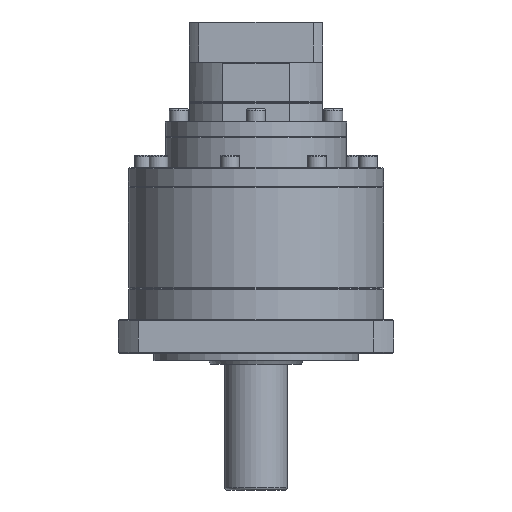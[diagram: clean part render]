
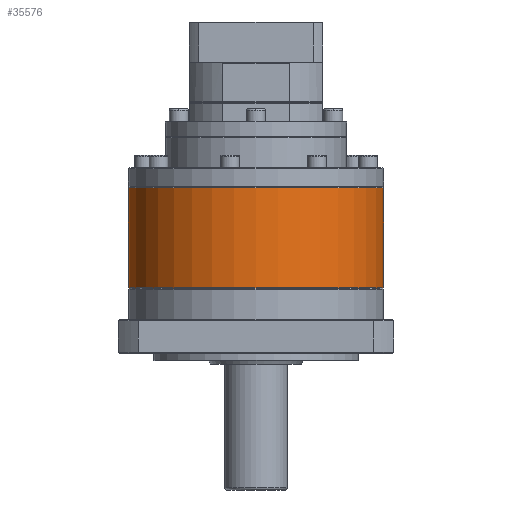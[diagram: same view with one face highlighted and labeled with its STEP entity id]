
A CAD part, front view. The second image highlights one B-rep face of the part: STEP entity #35576.
In plain terms, the highlighted cylindrical face has radius 81 mm (diameter 162 mm), a partial arc.
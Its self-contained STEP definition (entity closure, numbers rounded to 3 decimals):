
#2065 = CARTESIAN_POINT ( 'NONE',  ( -11.458, 32.86, -87.901 ) ) ;
#3018 = CYLINDRICAL_SURFACE ( 'NONE', #94611, 81. ) ;
#3564 = DIRECTION ( 'NONE',  ( 0., 0., -1. ) ) ;
#5560 = LINE ( 'NONE', #2065, #34774 ) ;
#6451 = VERTEX_POINT ( 'NONE', #16078 ) ;
#10670 = FACE_OUTER_BOUND ( 'NONE', #61128, .T. ) ;
#15890 = EDGE_CURVE ( 'NONE', #93166, #38255, #43528, .T. ) ;
#16078 = CARTESIAN_POINT ( 'NONE',  ( -11.458, 32.86, -151.901 ) ) ;
#19160 = CARTESIAN_POINT ( 'NONE',  ( -173.458, 32.86, -87.901 ) ) ;
#23987 = CARTESIAN_POINT ( 'NONE',  ( -173.458, 32.86, -88.401 ) ) ;
#26464 = CARTESIAN_POINT ( 'NONE',  ( -92.458, 32.86, -151.901 ) ) ;
#27842 = DIRECTION ( 'NONE',  ( 0., 0., 1. ) ) ;
#28817 = CARTESIAN_POINT ( 'NONE',  ( -92.458, 32.86, -87.901 ) ) ;
#29185 = DIRECTION ( 'NONE',  ( 0., 0., -1. ) ) ;
#32750 = VERTEX_POINT ( 'NONE', #53502 ) ;
#34774 = VECTOR ( 'NONE', #50673, 1000. ) ;
#35576 = ADVANCED_FACE ( 'NONE', ( #10670 ), #3018, .T. ) ;
#38255 = VERTEX_POINT ( 'NONE', #23987 ) ;
#40510 = EDGE_CURVE ( 'NONE', #32750, #6451, #79188, .T. ) ;
#43528 = CIRCLE ( 'NONE', #60629, 81. ) ;
#44148 = CARTESIAN_POINT ( 'NONE',  ( -92.458, 32.86, -88.401 ) ) ;
#47320 = ORIENTED_EDGE ( 'NONE', *, *, #40510, .T. ) ;
#50673 = DIRECTION ( 'NONE',  ( 0., 0., -1. ) ) ;
#53502 = CARTESIAN_POINT ( 'NONE',  ( -173.458, 32.86, -151.901 ) ) ;
#57980 = EDGE_CURVE ( 'NONE', #38255, #32750, #91707, .T. ) ;
#59594 = CARTESIAN_POINT ( 'NONE',  ( -11.458, 32.86, -88.401 ) ) ;
#60629 = AXIS2_PLACEMENT_3D ( 'NONE', #44148, #83908, #100266 ) ;
#61128 = EDGE_LOOP ( 'NONE', ( #87119, #88506, #98643, #47320 ) ) ;
#63807 = VECTOR ( 'NONE', #3564, 1000. ) ;
#65111 = EDGE_CURVE ( 'NONE', #93166, #6451, #5560, .T. ) ;
#74117 = AXIS2_PLACEMENT_3D ( 'NONE', #26464, #27842, #92440 ) ;
#79188 = CIRCLE ( 'NONE', #74117, 81. ) ;
#83908 = DIRECTION ( 'NONE',  ( 0., 0., -1. ) ) ;
#85604 = DIRECTION ( 'NONE',  ( -1., 0., 0. ) ) ;
#87119 = ORIENTED_EDGE ( 'NONE', *, *, #65111, .F. ) ;
#88506 = ORIENTED_EDGE ( 'NONE', *, *, #15890, .T. ) ;
#91707 = LINE ( 'NONE', #19160, #63807 ) ;
#92440 = DIRECTION ( 'NONE',  ( -1., 0., 0. ) ) ;
#93166 = VERTEX_POINT ( 'NONE', #59594 ) ;
#94611 = AXIS2_PLACEMENT_3D ( 'NONE', #28817, #29185, #85604 ) ;
#98643 = ORIENTED_EDGE ( 'NONE', *, *, #57980, .T. ) ;
#100266 = DIRECTION ( 'NONE',  ( -1., 0., 0. ) ) ;
